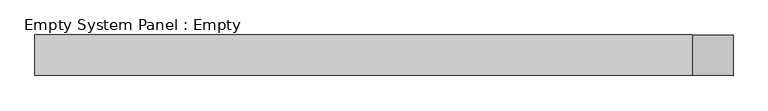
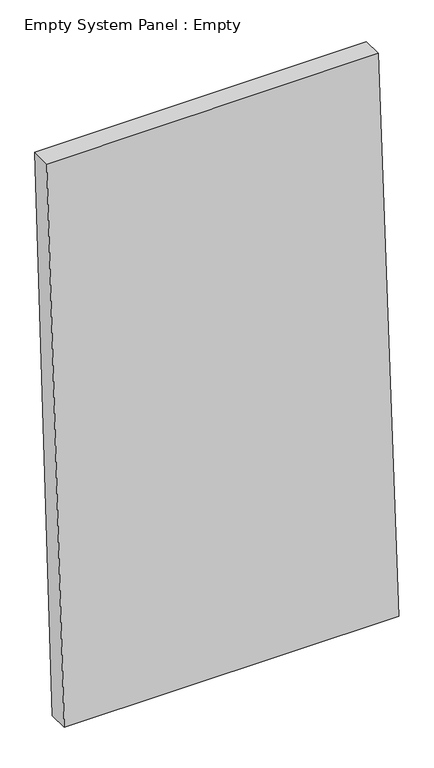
"""IFC4 building model written with IfcOpenShell, lengths in millimetres: plate geometry, Empty System Panel : Empty."""

from ifc_helpers import new_model, si_unit, frame, origin, place, context, project, spatial, polyline, outline, extrude, source, transform, mapped, element, save


def empty_system_panel_empty_862ef58f(model_context):
    return source(origin(), model_context, "Body", "SweptSolid", [
        extrude(outline(polyline([(0.0, -788.5579868), (0.0, 875.5124013), (2995.1579454, 772.7592633), (2990.8066409, -875.5124013), (0.0, -788.5579868)])), frame((0.0, -50.8, 0.0), z_axis=(0.0, 1.0, 0.0), x_axis=(0.0, 0.0, 1.0)), (0.0, 0.0, 1.0), 101.6),
    ])


if __name__ == "__main__":
    model = new_model("IFC4")
    model_context = context("Model", 3, world=origin())
    ifc_project = project(units=[si_unit("LENGTHUNIT", "METRE", prefix="MILLI")], contexts=[model_context])
    site = spatial("IfcSite", under=ifc_project)
    building = spatial("IfcBuilding", under=site)
    placement = place(None, origin())
    empty_system_panel_empty_shape = empty_system_panel_empty_862ef58f(model_context)
    element("IfcPlate", 1, ObjectType="Empty System Panel : Empty", at=placement, inside=building, context=model_context, shape_type="MappedRepresentation", body=[
        mapped(empty_system_panel_empty_shape, transform((0.0, 0.0, 0.0), x_axis=(1.0, 0.0, 0.0), y_axis=(0.0, 1.0, 0.0), z_axis=(0.0, 0.0, 1.0))),
    ])
    save(model, "model.ifc")
